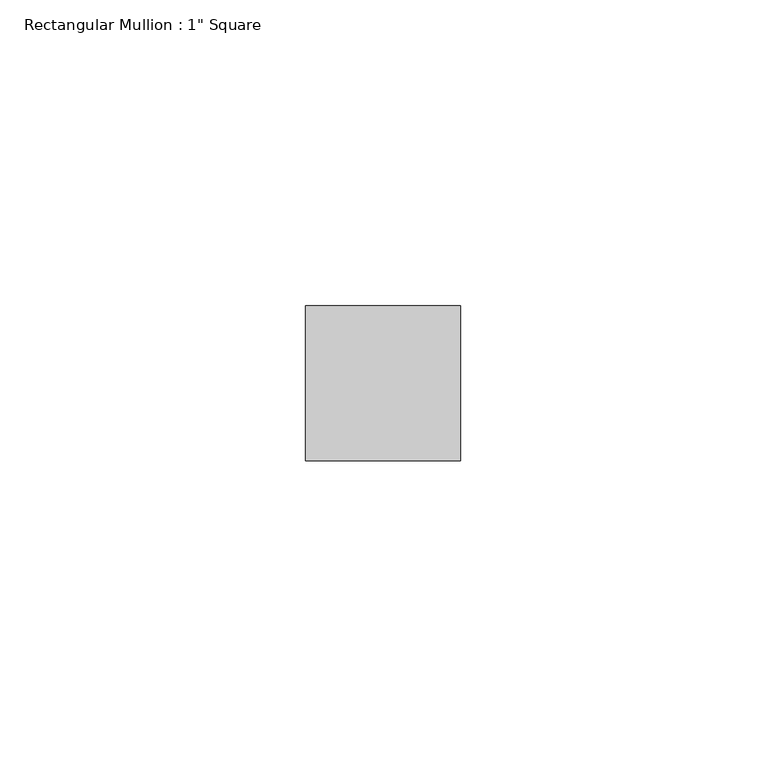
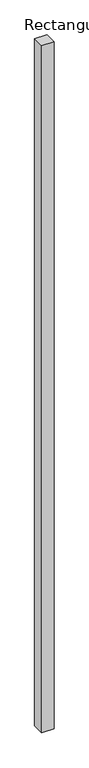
"""IFC4 building model written with IfcOpenShell, lengths in millimetres: member geometry."""

from ifc_helpers import new_model, si_unit, frame, origin, place, context, project, spatial, polyline, outline, extrude, source, transform, mapped, element, save


def member_4382594b(model_context):
    return source(origin(), model_context, "Body", "SweptSolid", [
        extrude(outline(polyline([(12.7, 12.7), (12.7, -12.7), (-12.7, -12.7), (-12.7, 12.7), (12.7, 12.7)])), frame((0.0, 0.0, -1516.4819639), z_axis=(0.0, 0.0, 1.0), x_axis=(1.0, 0.0, 0.0)), (0.0, 0.0, 1.0), 1516.4819639),
    ])


if __name__ == "__main__":
    model = new_model("IFC4")
    model_context = context("Model", 3, world=origin())
    ifc_project = project(units=[si_unit("LENGTHUNIT", "METRE", prefix="MILLI")], contexts=[model_context])
    site = spatial("IfcSite", under=ifc_project)
    building = spatial("IfcBuilding", under=site)
    placement = place(None, origin())
    member_shape = member_4382594b(model_context)
    element("IfcMember", 1, ObjectType="Rectangular Mullion : 1\" Square", at=placement, inside=building, context=model_context, shape_type="MappedRepresentation", body=[
        mapped(member_shape, transform((0.0, 0.0, 0.0), x_axis=(1.0, 0.0, 0.0), y_axis=(0.0, 1.0, 0.0), z_axis=(0.0, 0.0, 1.0))),
    ])
    save(model, "model.ifc")
